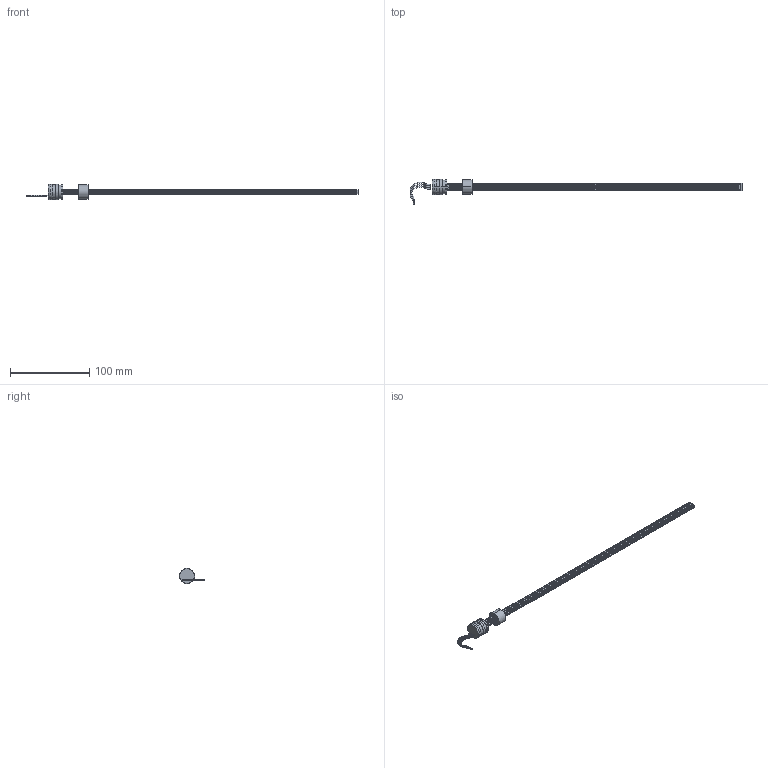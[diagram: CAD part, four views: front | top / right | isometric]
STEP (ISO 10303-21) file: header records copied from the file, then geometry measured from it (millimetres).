
FILE_DESCRIPTION (( 'STEP AP203' ), '1' );
FILE_NAME ('PS6507-regal.step', '2009-04-08T07:06:00', ( 'Gustaf Hederström' ), ( 'Cevican AB' ), 'SwSTEP 2.0', 'SolidWorks 2002308', '' );
FILE_SCHEMA (( 'CONFIG_CONTROL_DESIGN' ));
Length unit declared in the file: millimetre
Products named in the file (3): PS6507-regal; 30-0027_SW0001_6507; WIPER6500-6
Assembly tree (2 placements, depth 2):
  PS6507-regal
    30-0027_SW0001_6507
    WIPER6500-6
Bounding box: 419.62 x 32.31 x 19.7 mm (x, y, z)
Volume: 24989.9 mm3; surface area: 17021.4 mm2
Topology: 2 solids, 3 shells, 207 faces, 560 edges, 359 vertices
Faces by surface type: plane 92, cylinder 76, bspline 35, cone 4
Entity records: 8093 total; most frequent: CARTESIAN_POINT 2577, ORIENTED_EDGE 1120, DIRECTION 1082, EDGE_CURVE 560, AXIS2_PLACEMENT_3D 387, VERTEX_POINT 359, LINE 308, VECTOR 308
